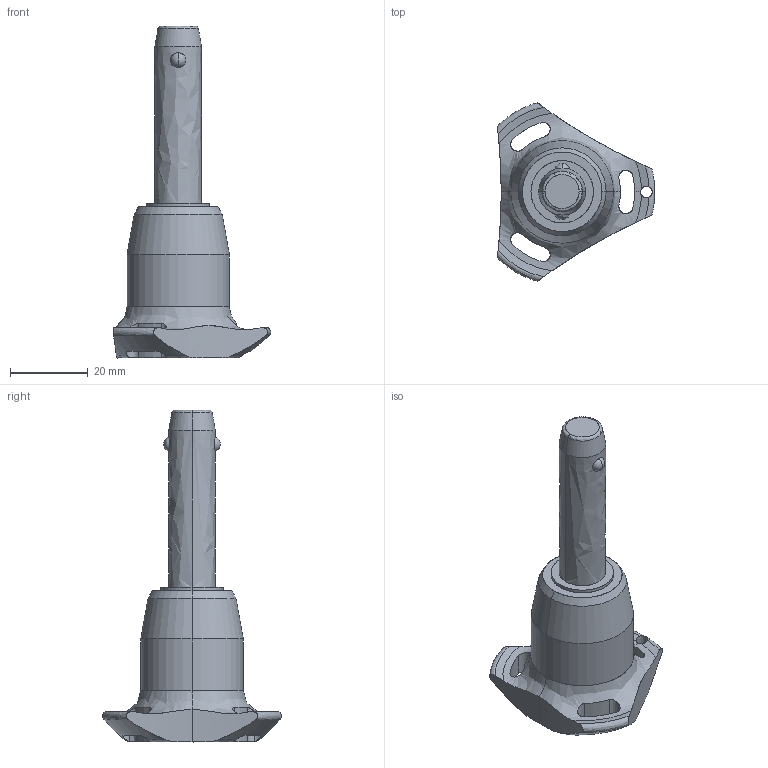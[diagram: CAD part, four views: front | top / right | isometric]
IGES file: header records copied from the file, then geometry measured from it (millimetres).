
Start section: SolidWorks IGES file using analytic representation for surfaces
Global section: file name: C:\Users\ianosborn\Desktop\QR1714_v2\QR1714_v2_20251112_IGES\QR1714.M12-035-S.igs; native system: SolidWorks 2019; preprocessor: SolidWorks 2019; author: IanOsborn; date: 251112.101402; units: millimetre
Bounding box: 40.5 x 45.88 x 85.3 mm (x, y, z)
Surface area: 7657.1 mm2 (no closed solid volume)
Topology: 0 solids, 0 shells, 65 faces, 1363 edges, 1359 vertices
Faces by surface type: revolution 50, bspline 15
